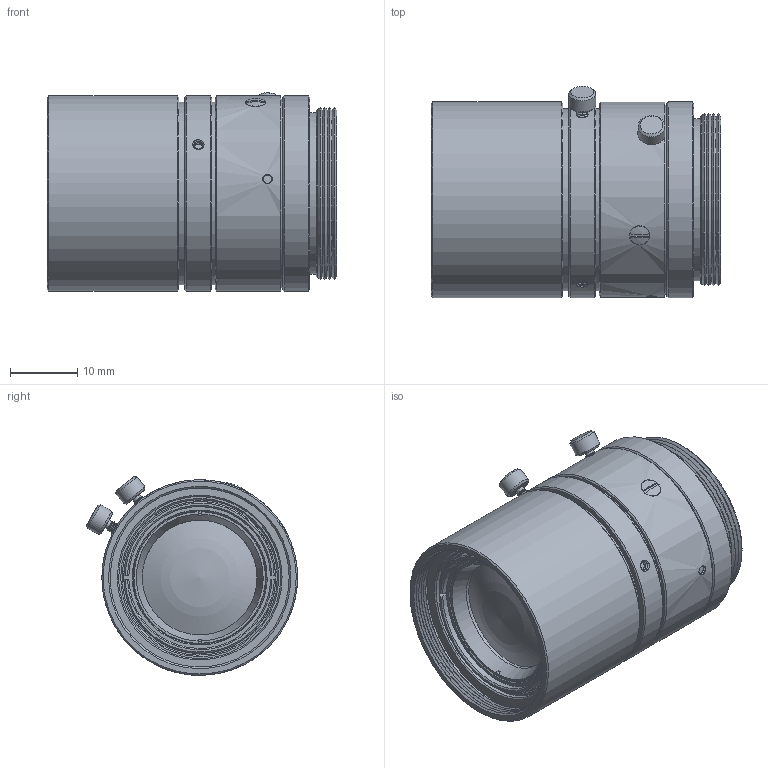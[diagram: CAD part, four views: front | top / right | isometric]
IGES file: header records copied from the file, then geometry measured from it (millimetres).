
Global section: file name: 153-13657_Objektiv LOC-35-HD-27x0,5; native system: Autodesk Inventor 2018; preprocessor: unknown; author: S.S.; date: 20200326.103259; units: millimetre
Bounding box: 42.87 x 31.28 x 29.45 mm (x, y, z)
Volume: 20750.5 mm3; surface area: 10916.5 mm2
Topology: 7 solids, 9 shells, 320 faces, 881 edges, 600 vertices
Faces by surface type: bspline 320
